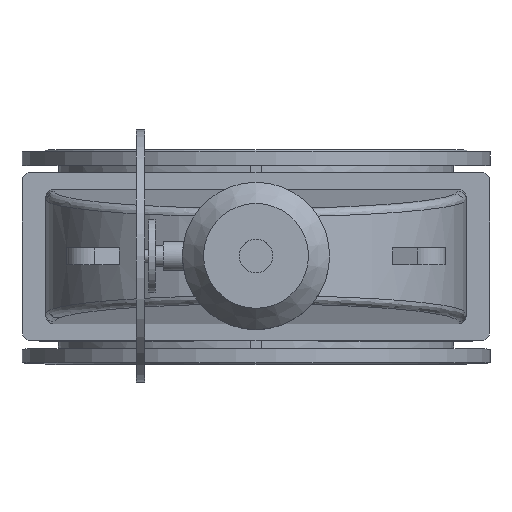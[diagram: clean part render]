
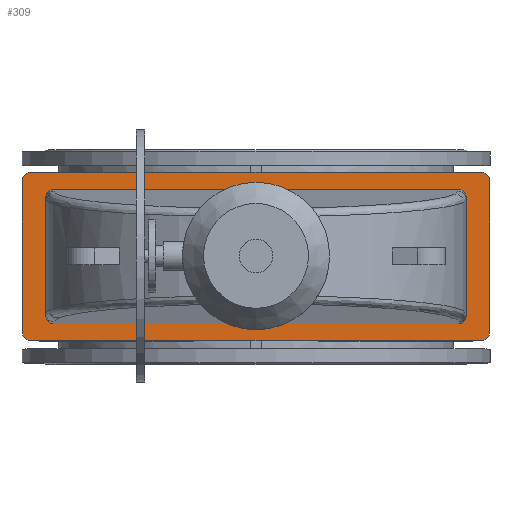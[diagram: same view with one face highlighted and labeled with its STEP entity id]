
A CAD part, top view. The second image highlights one B-rep face of the part: STEP entity #309.
In plain terms, the highlighted planar face has unit normal (0, 0, 1).
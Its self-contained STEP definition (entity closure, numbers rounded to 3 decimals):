
#309=ADVANCED_FACE('',(#3591,#3593),#3595,.T.);
#3591=FACE_BOUND('',#3592,.T.);
#3592=EDGE_LOOP('',(#8148,#8149,#8150,#8151,#8152,#8153,#8154,#8155));
#3593=FACE_BOUND('',#3594,.T.);
#3594=EDGE_LOOP('',(#8156,#8157,#8158,#8159,#8160,#8161,#8162,#8163));
#3595=PLANE('',#3596);
#3596=AXIS2_PLACEMENT_3D('',#3597,#3598,#3599);
#3597=CARTESIAN_POINT('',(0.,0.,996.));
#3598=DIRECTION('',(0.,-0.,1.));
#3599=DIRECTION('',(0.,1.,0.));
#8148=ORIENTED_EDGE('',*,*,#9470,.F.);
#8149=ORIENTED_EDGE('',*,*,#9471,.T.);
#8150=ORIENTED_EDGE('',*,*,#9472,.F.);
#8151=ORIENTED_EDGE('',*,*,#9473,.T.);
#8152=ORIENTED_EDGE('',*,*,#9474,.F.);
#8153=ORIENTED_EDGE('',*,*,#9475,.T.);
#8154=ORIENTED_EDGE('',*,*,#9476,.F.);
#8155=ORIENTED_EDGE('',*,*,#9477,.T.);
#8156=ORIENTED_EDGE('',*,*,#9468,.F.);
#8157=ORIENTED_EDGE('',*,*,#9467,.F.);
#8158=ORIENTED_EDGE('',*,*,#9469,.F.);
#8159=ORIENTED_EDGE('',*,*,#9442,.F.);
#8160=ORIENTED_EDGE('',*,*,#9478,.F.);
#8161=ORIENTED_EDGE('',*,*,#9479,.F.);
#8162=ORIENTED_EDGE('',*,*,#9480,.F.);
#8163=ORIENTED_EDGE('',*,*,#9435,.F.);
#9435=EDGE_CURVE('',#10142,#10144,#10145,.T.);
#9442=EDGE_CURVE('',#10154,#10152,#10156,.T.);
#9467=EDGE_CURVE('',#10195,#10193,#10197,.T.);
#9468=EDGE_CURVE('',#10193,#10142,#10198,.F.);
#9469=EDGE_CURVE('',#10152,#10195,#10199,.T.);
#9470=EDGE_CURVE('',#10200,#10201,#10202,.F.);
#9471=EDGE_CURVE('',#10200,#10203,#10204,.T.);
#9472=EDGE_CURVE('',#10205,#10203,#10206,.F.);
#9473=EDGE_CURVE('',#10205,#10207,#10208,.T.);
#9474=EDGE_CURVE('',#10209,#10207,#10210,.F.);
#9475=EDGE_CURVE('',#10209,#10211,#10212,.T.);
#9476=EDGE_CURVE('',#10213,#10211,#10214,.F.);
#9477=EDGE_CURVE('',#10213,#10201,#10215,.T.);
#9478=EDGE_CURVE('',#10216,#10154,#10217,.F.);
#9479=EDGE_CURVE('',#10218,#10216,#10219,.T.);
#9480=EDGE_CURVE('',#10144,#10218,#10220,.T.);
#10142=VERTEX_POINT('',#11603);
#10144=VERTEX_POINT('',#11607);
#10145=LINE('',#11608,#11609);
#10152=VERTEX_POINT('',#11628);
#10154=VERTEX_POINT('',#11632);
#10156=LINE('',#11636,#11637);
#10193=VERTEX_POINT('',#11729);
#10195=VERTEX_POINT('',#11733);
#10197=LINE('',#11737,#11738);
#10198=(BOUNDED_CURVE()B_SPLINE_CURVE(3,
(#11740,#11741,#11742,#11743),
.UNSPECIFIED.,.F.,.F.)B_SPLINE_CURVE_WITH_KNOTS((4,4),
(0.,1.),
.UNSPECIFIED.)CURVE()GEOMETRIC_REPRESENTATION_ITEM()RATIONAL_B_SPLINE_CURVE((1.,
0.805,0.805,1.))REPRESENTATION_ITEM(''));
#10199=(BOUNDED_CURVE()B_SPLINE_CURVE(3,
(#11744,#11745,#11746,#11747),
.UNSPECIFIED.,.F.,.F.)B_SPLINE_CURVE_WITH_KNOTS((4,4),
(0.,1.),
.UNSPECIFIED.)CURVE()GEOMETRIC_REPRESENTATION_ITEM()RATIONAL_B_SPLINE_CURVE((1.,
0.805,0.805,1.))REPRESENTATION_ITEM(''));
#10200=VERTEX_POINT('',#11748);
#10201=VERTEX_POINT('',#11749);
#10202=CIRCLE('',#11750,20.);
#10203=VERTEX_POINT('',#11754);
#10204=LINE('',#11755,#11756);
#10205=VERTEX_POINT('',#11758);
#10206=CIRCLE('',#11759,20.);
#10207=VERTEX_POINT('',#11763);
#10208=LINE('',#11764,#11765);
#10209=VERTEX_POINT('',#11767);
#10210=CIRCLE('',#11768,20.);
#10211=VERTEX_POINT('',#11772);
#10212=LINE('',#11773,#11774);
#10213=VERTEX_POINT('',#11776);
#10214=CIRCLE('',#11777,20.);
#10215=LINE('',#11781,#11782);
#10216=VERTEX_POINT('',#11784);
#10217=(BOUNDED_CURVE()B_SPLINE_CURVE(3,
(#11785,#11786,#11787,#11788),
.UNSPECIFIED.,.F.,.F.)B_SPLINE_CURVE_WITH_KNOTS((4,4),
(0.,1.),
.UNSPECIFIED.)CURVE()GEOMETRIC_REPRESENTATION_ITEM()RATIONAL_B_SPLINE_CURVE((1.,
0.805,0.805,1.))REPRESENTATION_ITEM(''));
#10218=VERTEX_POINT('',#11789);
#10219=LINE('',#11790,#11791);
#10220=(BOUNDED_CURVE()B_SPLINE_CURVE(3,
(#11793,#11794,#11795,#11796),
.UNSPECIFIED.,.F.,.F.)B_SPLINE_CURVE_WITH_KNOTS((4,4),
(0.,1.),
.UNSPECIFIED.)CURVE()GEOMETRIC_REPRESENTATION_ITEM()RATIONAL_B_SPLINE_CURVE((1.,
0.805,0.805,1.))REPRESENTATION_ITEM(''));
#11603=CARTESIAN_POINT('',(500.,-139.924,996.));
#11607=CARTESIAN_POINT('',(500.,139.924,996.));
#11608=CARTESIAN_POINT('',(500.,-139.924,996.));
#11609=VECTOR('',#11610,1.);
#11610=DIRECTION('',(0.,1.,0.));
#11628=CARTESIAN_POINT('',(-500.,-139.924,996.));
#11632=CARTESIAN_POINT('',(-500.,139.924,996.));
#11636=CARTESIAN_POINT('',(-500.,139.924,996.));
#11637=VECTOR('',#11638,1.);
#11638=DIRECTION('',(0.,-1.,0.));
#11729=CARTESIAN_POINT('',(480.,-160.,996.));
#11733=CARTESIAN_POINT('',(-480.,-160.,996.));
#11737=CARTESIAN_POINT('',(-480.,-160.,996.));
#11738=VECTOR('',#11739,1.);
#11739=DIRECTION('',(1.,0.,0.));
#11740=CARTESIAN_POINT('',(500.,-139.924,996.));
#11741=CARTESIAN_POINT('',(500.,-151.684,996.));
#11742=CARTESIAN_POINT('',(491.716,-160.,996.));
#11743=CARTESIAN_POINT('',(480.,-160.,996.));
#11744=CARTESIAN_POINT('',(-500.,-139.924,996.));
#11745=CARTESIAN_POINT('',(-500.,-151.684,996.));
#11746=CARTESIAN_POINT('',(-491.716,-160.,996.));
#11747=CARTESIAN_POINT('',(-480.,-160.,996.));
#11748=CARTESIAN_POINT('',(-535.,-200.,996.));
#11749=CARTESIAN_POINT('',(-555.,-180.,996.));
#11750=AXIS2_PLACEMENT_3D('',#11751,#11752,#11753);
#11751=CARTESIAN_POINT('',(-535.,-180.,996.));
#11752=DIRECTION('',(0.,-0.,1.));
#11753=DIRECTION('',(-1.,0.,0.));
#11754=CARTESIAN_POINT('',(535.,-200.,996.));
#11755=CARTESIAN_POINT('',(-535.,-200.,996.));
#11756=VECTOR('',#11757,1.);
#11757=DIRECTION('',(1.,0.,0.));
#11758=CARTESIAN_POINT('',(555.,-180.,996.));
#11759=AXIS2_PLACEMENT_3D('',#11760,#11761,#11762);
#11760=CARTESIAN_POINT('',(535.,-180.,996.));
#11761=DIRECTION('',(0.,-0.,1.));
#11762=DIRECTION('',(0.,-1.,0.));
#11763=CARTESIAN_POINT('',(555.,180.,996.));
#11764=CARTESIAN_POINT('',(555.,-180.,996.));
#11765=VECTOR('',#11766,1.);
#11766=DIRECTION('',(0.,1.,0.));
#11767=CARTESIAN_POINT('',(535.,200.,996.));
#11768=AXIS2_PLACEMENT_3D('',#11769,#11770,#11771);
#11769=CARTESIAN_POINT('',(535.,180.,996.));
#11770=DIRECTION('',(0.,-0.,1.));
#11771=DIRECTION('',(1.,0.,0.));
#11772=CARTESIAN_POINT('',(-535.,200.,996.));
#11773=CARTESIAN_POINT('',(535.,200.,996.));
#11774=VECTOR('',#11775,1.);
#11775=DIRECTION('',(-1.,0.,0.));
#11776=CARTESIAN_POINT('',(-555.,180.,996.));
#11777=AXIS2_PLACEMENT_3D('',#11778,#11779,#11780);
#11778=CARTESIAN_POINT('',(-535.,180.,996.));
#11779=DIRECTION('',(0.,-0.,1.));
#11780=DIRECTION('',(0.,1.,0.));
#11781=CARTESIAN_POINT('',(-555.,180.,996.));
#11782=VECTOR('',#11783,1.);
#11783=DIRECTION('',(0.,-1.,0.));
#11784=CARTESIAN_POINT('',(-480.,160.,996.));
#11785=CARTESIAN_POINT('',(-500.,139.924,996.));
#11786=CARTESIAN_POINT('',(-500.,151.684,996.));
#11787=CARTESIAN_POINT('',(-491.716,160.,996.));
#11788=CARTESIAN_POINT('',(-480.,160.,996.));
#11789=CARTESIAN_POINT('',(480.,160.,996.));
#11790=CARTESIAN_POINT('',(480.,160.,996.));
#11791=VECTOR('',#11792,1.);
#11792=DIRECTION('',(-1.,0.,0.));
#11793=CARTESIAN_POINT('',(500.,139.924,996.));
#11794=CARTESIAN_POINT('',(500.,151.684,996.));
#11795=CARTESIAN_POINT('',(491.716,160.,996.));
#11796=CARTESIAN_POINT('',(480.,160.,996.));
